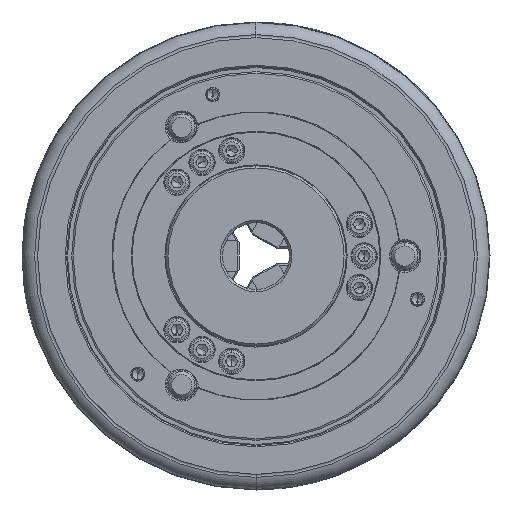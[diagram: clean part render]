
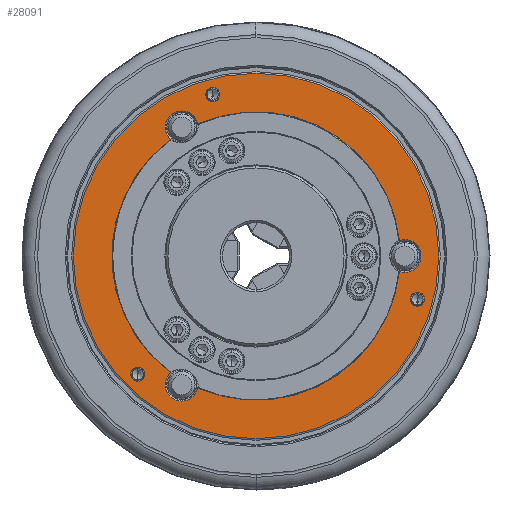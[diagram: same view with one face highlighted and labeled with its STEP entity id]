
A CAD part, left-side view. The second image highlights one B-rep face of the part: STEP entity #28091.
In plain terms, the highlighted planar face has unit normal (-1, 0, 0) as drawn and (0, 0, -1) by its records, which use the part's own axes.
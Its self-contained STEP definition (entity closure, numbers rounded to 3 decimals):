
#2386 = CARTESIAN_POINT ( 'NONE',  ( 6.98, -64.373, -86. ) ) ;
#2806 = CARTESIAN_POINT ( 'NONE',  ( 0., 0., -86. ) ) ;
#3924 = VERTEX_POINT ( 'NONE', #2386 ) ;
#5103 = VERTEX_POINT ( 'NONE', #57056 ) ;
#6403 = CARTESIAN_POINT ( 'NONE',  ( 19.411, -72.444, -86. ) ) ;
#6789 = VERTEX_POINT ( 'NONE', #25350 ) ;
#7997 = AXIS2_PLACEMENT_3D ( 'NONE', #70741, #61177, #18689 ) ;
#9057 = CIRCLE ( 'NONE', #38028, 3.2 ) ;
#9612 = CIRCLE ( 'NONE', #41673, 3.2 ) ;
#9994 = EDGE_CURVE ( 'NONE', #13587, #5103, #67449, .T. ) ;
#10397 = AXIS2_PLACEMENT_3D ( 'NONE', #48786, #34468, #11554 ) ;
#10612 = DIRECTION ( 'NONE',  ( 1., 0., 0. ) ) ;
#11554 = DIRECTION ( 'NONE',  ( -1., 0., 0. ) ) ;
#12375 = CIRCLE ( 'NONE', #77981, 82. ) ;
#12624 = VERTEX_POINT ( 'NONE', #43739 ) ;
#13121 = VERTEX_POINT ( 'NONE', #46409 ) ;
#13587 = VERTEX_POINT ( 'NONE', #24829 ) ;
#15200 = DIRECTION ( 'NONE',  ( 1., 0., 0. ) ) ;
#15277 = ORIENTED_EDGE ( 'NONE', *, *, #66167, .F. ) ;
#15940 = DIRECTION ( 'NONE',  ( 0., 0., 1. ) ) ;
#17918 = DIRECTION ( 'NONE',  ( -1., 0., 0. ) ) ;
#18081 = CIRCLE ( 'NONE', #27234, 3.2 ) ;
#18490 = CARTESIAN_POINT ( 'NONE',  ( 22.611, -72.444, -86. ) ) ;
#18570 = FACE_BOUND ( 'NONE', #91307, .T. ) ;
#18689 = DIRECTION ( 'NONE',  ( 1., 0., 0. ) ) ;
#18784 = AXIS2_PLACEMENT_3D ( 'NONE', #44793, #67710, #15200 ) ;
#20091 = DIRECTION ( 'NONE',  ( 0.5, 0.866, 0. ) ) ;
#20963 = DIRECTION ( 'NONE',  ( -1., 0., 0. ) ) ;
#24320 = PLANE ( 'NONE',  #83234 ) ;
#24597 = EDGE_CURVE ( 'NONE', #6789, #37285, #64525, .T. ) ;
#24645 = CARTESIAN_POINT ( 'NONE',  ( 0., 0., -86. ) ) ;
#24798 = FACE_BOUND ( 'NONE', #65567, .T. ) ;
#24829 = CARTESIAN_POINT ( 'NONE',  ( -52.258, 38.231, -86. ) ) ;
#25272 = CARTESIAN_POINT ( 'NONE',  ( 56.075, 32.375, -86. ) ) ;
#25350 = CARTESIAN_POINT ( 'NONE',  ( 16.211, -72.444, -86. ) ) ;
#25486 = EDGE_LOOP ( 'NONE', ( #46742, #15277 ) ) ;
#26859 = ORIENTED_EDGE ( 'NONE', *, *, #9994, .T. ) ;
#27234 = AXIS2_PLACEMENT_3D ( 'NONE', #92153, #78747, #20963 ) ;
#28091 = ADVANCED_FACE ( 'NONE', ( #18570, #61069, #89765, #24798, #76832 ), #24320, .T. ) ;
#30190 = DIRECTION ( 'NONE',  ( 0., 0., -1. ) ) ;
#30549 = EDGE_CURVE ( 'NONE', #83660, #61338, #83629, .T. ) ;
#31136 = CARTESIAN_POINT ( 'NONE',  ( 19.411, -72.444, -86. ) ) ;
#31957 = DIRECTION ( 'NONE',  ( 0.5, -0.866, 0. ) ) ;
#34044 = VERTEX_POINT ( 'NONE', #57104 ) ;
#34468 = DIRECTION ( 'NONE',  ( 0., 0., -1. ) ) ;
#35078 = ORIENTED_EDGE ( 'NONE', *, *, #65488, .F. ) ;
#35241 = VERTEX_POINT ( 'NONE', #70385 ) ;
#35539 = AXIS2_PLACEMENT_3D ( 'NONE', #6403, #85716, #86203 ) ;
#35573 = CARTESIAN_POINT ( 'NONE',  ( 0., -66.675, -86. ) ) ;
#37285 = VERTEX_POINT ( 'NONE', #18490 ) ;
#37317 = VERTEX_POINT ( 'NONE', #75794 ) ;
#37321 = AXIS2_PLACEMENT_3D ( 'NONE', #35573, #15940, #81377 ) ;
#37484 = VERTEX_POINT ( 'NONE', #52187 ) ;
#38028 = AXIS2_PLACEMENT_3D ( 'NONE', #59555, #82005, #45688 ) ;
#38220 = AXIS2_PLACEMENT_3D ( 'NONE', #2806, #83528, #31957 ) ;
#38599 = CIRCLE ( 'NONE', #18784, 82. ) ;
#39479 = EDGE_CURVE ( 'NONE', #34044, #3924, #87739, .T. ) ;
#39740 = DIRECTION ( 'NONE',  ( 0., 0., 1. ) ) ;
#40463 = EDGE_CURVE ( 'NONE', #35241, #37317, #77141, .T. ) ;
#41568 = CARTESIAN_POINT ( 'NONE',  ( 0., 0., -86. ) ) ;
#41673 = AXIS2_PLACEMENT_3D ( 'NONE', #31136, #30190, #67918 ) ;
#42355 = AXIS2_PLACEMENT_3D ( 'NONE', #64716, #63282, #85257 ) ;
#42744 = EDGE_LOOP ( 'NONE', ( #63920, #58172 ) ) ;
#43739 = CARTESIAN_POINT ( 'NONE',  ( 59.238, 26.141, -86. ) ) ;
#44793 = CARTESIAN_POINT ( 'NONE',  ( 0., 0., -86. ) ) ;
#45654 = DIRECTION ( 'NONE',  ( 1., 0., 0. ) ) ;
#45688 = DIRECTION ( 'NONE',  ( -1., 0., 0. ) ) ;
#46409 = CARTESIAN_POINT ( 'NONE',  ( 52.258, 38.231, -86. ) ) ;
#46736 = DIRECTION ( 'NONE',  ( 0., 0., -1. ) ) ;
#46742 = ORIENTED_EDGE ( 'NONE', *, *, #49496, .F. ) ;
#48786 = CARTESIAN_POINT ( 'NONE',  ( -72.444, 19.411, -86. ) ) ;
#49298 = AXIS2_PLACEMENT_3D ( 'NONE', #76029, #39740, #10612 ) ;
#49496 = EDGE_CURVE ( 'NONE', #58678, #37484, #38599, .T. ) ;
#52187 = CARTESIAN_POINT ( 'NONE',  ( -82., 0., -86. ) ) ;
#53758 = DIRECTION ( 'NONE',  ( 0., 0., 1. ) ) ;
#54213 = CARTESIAN_POINT ( 'NONE',  ( 53.033, 53.033, -86. ) ) ;
#56929 = ORIENTED_EDGE ( 'NONE', *, *, #63613, .F. ) ;
#57056 = CARTESIAN_POINT ( 'NONE',  ( -59.238, 26.141, -86. ) ) ;
#57104 = CARTESIAN_POINT ( 'NONE',  ( -6.98, -64.373, -86. ) ) ;
#58172 = ORIENTED_EDGE ( 'NONE', *, *, #81735, .F. ) ;
#58383 = CARTESIAN_POINT ( 'NONE',  ( -75.644, 19.411, -86. ) ) ;
#58678 = VERTEX_POINT ( 'NONE', #74442 ) ;
#59197 = ORIENTED_EDGE ( 'NONE', *, *, #87950, .F. ) ;
#59387 = ORIENTED_EDGE ( 'NONE', *, *, #30549, .F. ) ;
#59555 = CARTESIAN_POINT ( 'NONE',  ( -72.444, 19.411, -86. ) ) ;
#60592 = DIRECTION ( 'NONE',  ( -1., 0., 0. ) ) ;
#61069 = FACE_BOUND ( 'NONE', #65787, .T. ) ;
#61177 = DIRECTION ( 'NONE',  ( 0., 0., 1. ) ) ;
#61338 = VERTEX_POINT ( 'NONE', #87928 ) ;
#62320 = ORIENTED_EDGE ( 'NONE', *, *, #69560, .F. ) ;
#62327 = DIRECTION ( 'NONE',  ( 0., 0., -1. ) ) ;
#63073 = CIRCLE ( 'NONE', #49298, 64.75 ) ;
#63282 = DIRECTION ( 'NONE',  ( 0., 0., -1. ) ) ;
#63613 = EDGE_CURVE ( 'NONE', #34044, #5103, #71793, .T. ) ;
#63920 = ORIENTED_EDGE ( 'NONE', *, *, #40463, .F. ) ;
#64525 = CIRCLE ( 'NONE', #35539, 3.2 ) ;
#64716 = CARTESIAN_POINT ( 'NONE',  ( 57.742, 33.338, -86. ) ) ;
#64955 = AXIS2_PLACEMENT_3D ( 'NONE', #54213, #62327, #17918 ) ;
#65488 = EDGE_CURVE ( 'NONE', #12624, #3924, #85563, .T. ) ;
#65567 = EDGE_LOOP ( 'NONE', ( #78801, #35078, #62320, #84525, #26859, #56929 ) ) ;
#65787 = EDGE_LOOP ( 'NONE', ( #86930, #59197 ) ) ;
#66167 = EDGE_CURVE ( 'NONE', #37484, #58678, #12375, .T. ) ;
#67449 = CIRCLE ( 'NONE', #7997, 7.35 ) ;
#67710 = DIRECTION ( 'NONE',  ( 0., 0., 1. ) ) ;
#67918 = DIRECTION ( 'NONE',  ( -1., 0., 0. ) ) ;
#69560 = EDGE_CURVE ( 'NONE', #13121, #12624, #83525, .T. ) ;
#70339 = AXIS2_PLACEMENT_3D ( 'NONE', #41568, #94101, #20091 ) ;
#70385 = CARTESIAN_POINT ( 'NONE',  ( 49.833, 53.033, -86. ) ) ;
#70741 = CARTESIAN_POINT ( 'NONE',  ( -57.742, 33.338, -86. ) ) ;
#71793 = CIRCLE ( 'NONE', #38220, 64.75 ) ;
#71929 = ORIENTED_EDGE ( 'NONE', *, *, #73031, .F. ) ;
#73031 = EDGE_CURVE ( 'NONE', #61338, #83660, #9057, .T. ) ;
#74442 = CARTESIAN_POINT ( 'NONE',  ( 82., 0., -86. ) ) ;
#75794 = CARTESIAN_POINT ( 'NONE',  ( 56.233, 53.033, -86. ) ) ;
#76029 = CARTESIAN_POINT ( 'NONE',  ( 0., 0., -86. ) ) ;
#76832 = FACE_OUTER_BOUND ( 'NONE', #25486, .T. ) ;
#77141 = CIRCLE ( 'NONE', #64955, 3.2 ) ;
#77981 = AXIS2_PLACEMENT_3D ( 'NONE', #24645, #53758, #45654 ) ;
#78747 = DIRECTION ( 'NONE',  ( 0., 0., -1. ) ) ;
#78801 = ORIENTED_EDGE ( 'NONE', *, *, #39479, .T. ) ;
#81377 = DIRECTION ( 'NONE',  ( -0.5, 0.866, 0. ) ) ;
#81735 = EDGE_CURVE ( 'NONE', #37317, #35241, #18081, .T. ) ;
#82005 = DIRECTION ( 'NONE',  ( 0., 0., -1. ) ) ;
#83234 = AXIS2_PLACEMENT_3D ( 'NONE', #25272, #46736, #60592 ) ;
#83525 = CIRCLE ( 'NONE', #42355, 7.35 ) ;
#83528 = DIRECTION ( 'NONE',  ( 0., 0., -1. ) ) ;
#83629 = CIRCLE ( 'NONE', #10397, 3.2 ) ;
#83660 = VERTEX_POINT ( 'NONE', #58383 ) ;
#84525 = ORIENTED_EDGE ( 'NONE', *, *, #90219, .T. ) ;
#85257 = DIRECTION ( 'NONE',  ( -1., 0., 0. ) ) ;
#85563 = CIRCLE ( 'NONE', #70339, 64.75 ) ;
#85716 = DIRECTION ( 'NONE',  ( 0., 0., -1. ) ) ;
#86203 = DIRECTION ( 'NONE',  ( -1., 0., 0. ) ) ;
#86930 = ORIENTED_EDGE ( 'NONE', *, *, #24597, .F. ) ;
#87739 = CIRCLE ( 'NONE', #37321, 7.35 ) ;
#87928 = CARTESIAN_POINT ( 'NONE',  ( -69.244, 19.411, -86. ) ) ;
#87950 = EDGE_CURVE ( 'NONE', #37285, #6789, #9612, .T. ) ;
#89765 = FACE_BOUND ( 'NONE', #42744, .T. ) ;
#90219 = EDGE_CURVE ( 'NONE', #13121, #13587, #63073, .T. ) ;
#91307 = EDGE_LOOP ( 'NONE', ( #59387, #71929 ) ) ;
#92153 = CARTESIAN_POINT ( 'NONE',  ( 53.033, 53.033, -86. ) ) ;
#94101 = DIRECTION ( 'NONE',  ( 0., 0., -1. ) ) ;
